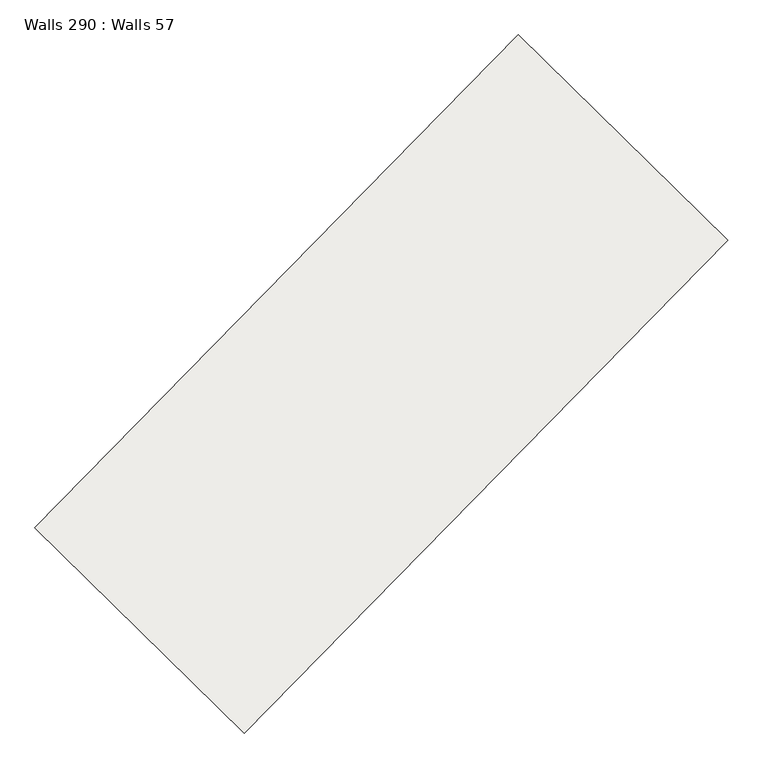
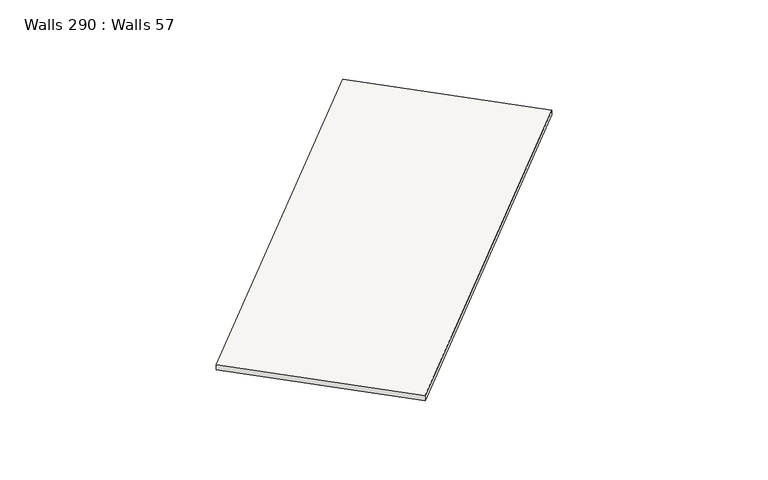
"""IFC4 building model written with IfcOpenShell, lengths in millimetres: slab geometry, Walls 290 : Walls 57."""

from ifc_helpers import new_model, si_unit, frame, origin, place, context, project, spatial, polyline, outline, extrude, source, transform, mapped, element, save


def walls_290_walls_57_596c4a69(model_context):
    return source(origin(), model_context, "Body", "SweptSolid", [
        extrude(outline(polyline([(-50.0, 0.0), (50.0, 0.0), (-30.0, -8699.9999997), (-130.0, -8699.9999997), (-50.0, 0.0)])), frame((-36511.8379784, -196551.177071, 637510.0), z_axis=(-0.7137361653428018, 0.7004146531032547, 0.0), x_axis=(0.0, 0.0, 1.0)), (0.0, 0.0, 1.0), 3699.999995),
    ])


if __name__ == "__main__":
    model = new_model("IFC4")
    model_context = context("Model", 3, world=origin())
    ifc_project = project(units=[si_unit("LENGTHUNIT", "METRE", prefix="MILLI")], contexts=[model_context])
    site = spatial("IfcSite", under=ifc_project)
    building = spatial("IfcBuilding", under=site)
    placement = place(None, origin())
    walls_290_walls_57_shape = walls_290_walls_57_596c4a69(model_context)
    element("IfcSlab", 1, ObjectType="Walls 290 : Walls 57", at=placement, inside=building, context=model_context, shape_type="MappedRepresentation", body=[
        mapped(walls_290_walls_57_shape, transform((0.0, 0.0, 0.0), x_axis=(1.0, 0.0, 0.0), y_axis=(0.0, 1.0, 0.0), z_axis=(0.0, 0.0, 1.0))),
    ])
    save(model, "model.ifc")
